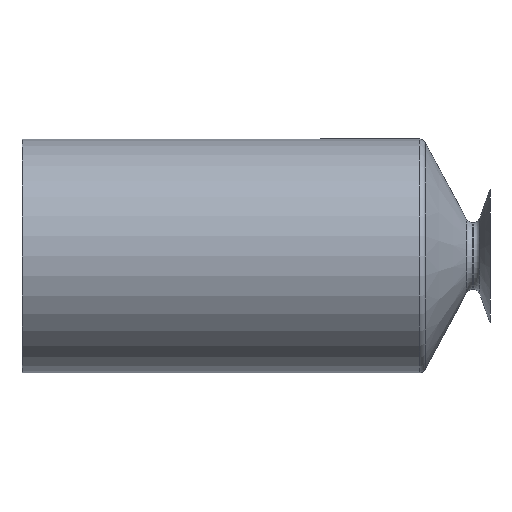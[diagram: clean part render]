
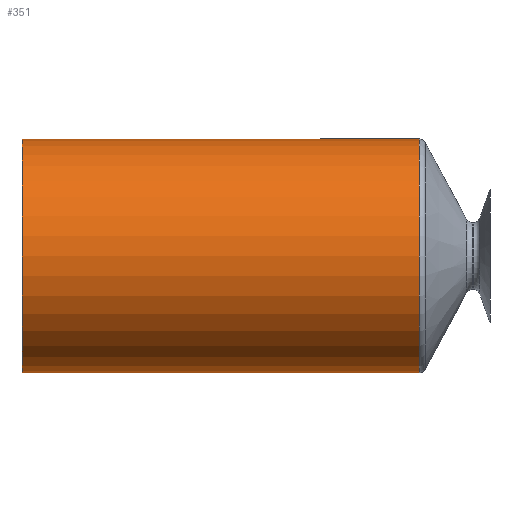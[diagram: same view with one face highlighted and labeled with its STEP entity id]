
A CAD part, left-side view. The second image highlights one B-rep face of the part: STEP entity #351.
In plain terms, the highlighted cylindrical face has radius 3.5 mm (diameter 7 mm), a partial arc.
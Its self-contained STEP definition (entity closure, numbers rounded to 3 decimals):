
#35 = EDGE_CURVE ( 'NONE', #367, #292, #523, .T. ) ;
#37 = EDGE_LOOP ( 'NONE', ( #320, #131, #555, #630 ) ) ;
#44 = CARTESIAN_POINT ( 'NONE',  ( 0., 0., -3.5 ) ) ;
#79 = CARTESIAN_POINT ( 'NONE',  ( 0., 0., 3.5 ) ) ;
#88 = EDGE_CURVE ( 'NONE', #367, #396, #161, .T. ) ;
#94 = CYLINDRICAL_SURFACE ( 'NONE', #144, 3.5 ) ;
#122 = VERTEX_POINT ( 'NONE', #356 ) ;
#128 = DIRECTION ( 'NONE',  ( 0., -1., 0. ) ) ;
#131 = ORIENTED_EDGE ( 'NONE', *, *, #35, .T. ) ;
#144 = AXIS2_PLACEMENT_3D ( 'NONE', #188, #128, #159 ) ;
#148 = DIRECTION ( 'NONE',  ( 0., -1., 0. ) ) ;
#159 = DIRECTION ( 'NONE',  ( 0., 0., -1. ) ) ;
#161 = LINE ( 'NONE', #79, #604 ) ;
#173 = EDGE_CURVE ( 'NONE', #292, #122, #317, .T. ) ;
#188 = CARTESIAN_POINT ( 'NONE',  ( 0., 0., 0. ) ) ;
#230 = CARTESIAN_POINT ( 'NONE',  ( 0., 14., 0. ) ) ;
#286 = DIRECTION ( 'NONE',  ( 0., -1., 0. ) ) ;
#292 = VERTEX_POINT ( 'NONE', #537 ) ;
#317 = LINE ( 'NONE', #44, #401 ) ;
#320 = ORIENTED_EDGE ( 'NONE', *, *, #88, .F. ) ;
#351 = ADVANCED_FACE ( 'NONE', ( #527 ), #94, .T. ) ;
#356 = CARTESIAN_POINT ( 'NONE',  ( 0., 2.119, -3.5 ) ) ;
#367 = VERTEX_POINT ( 'NONE', #387 ) ;
#387 = CARTESIAN_POINT ( 'NONE',  ( 0., 14., 3.5 ) ) ;
#396 = VERTEX_POINT ( 'NONE', #611 ) ;
#401 = VECTOR ( 'NONE', #286, 1000. ) ;
#440 = CARTESIAN_POINT ( 'NONE',  ( 0., 2.119, 0. ) ) ;
#455 = DIRECTION ( 'NONE',  ( 0., -1., 0. ) ) ;
#470 = AXIS2_PLACEMENT_3D ( 'NONE', #230, #673, #610 ) ;
#523 = CIRCLE ( 'NONE', #470, 3.5 ) ;
#527 = FACE_OUTER_BOUND ( 'NONE', #37, .T. ) ;
#537 = CARTESIAN_POINT ( 'NONE',  ( 0., 14., -3.5 ) ) ;
#555 = ORIENTED_EDGE ( 'NONE', *, *, #173, .T. ) ;
#604 = VECTOR ( 'NONE', #455, 1000. ) ;
#610 = DIRECTION ( 'NONE',  ( 0., 0., -1. ) ) ;
#611 = CARTESIAN_POINT ( 'NONE',  ( 0., 2.119, 3.5 ) ) ;
#624 = DIRECTION ( 'NONE',  ( 0., 0., -1. ) ) ;
#628 = AXIS2_PLACEMENT_3D ( 'NONE', #440, #148, #624 ) ;
#630 = ORIENTED_EDGE ( 'NONE', *, *, #641, .F. ) ;
#641 = EDGE_CURVE ( 'NONE', #396, #122, #704, .T. ) ;
#673 = DIRECTION ( 'NONE',  ( 0., -1., 0. ) ) ;
#704 = CIRCLE ( 'NONE', #628, 3.5 ) ;
